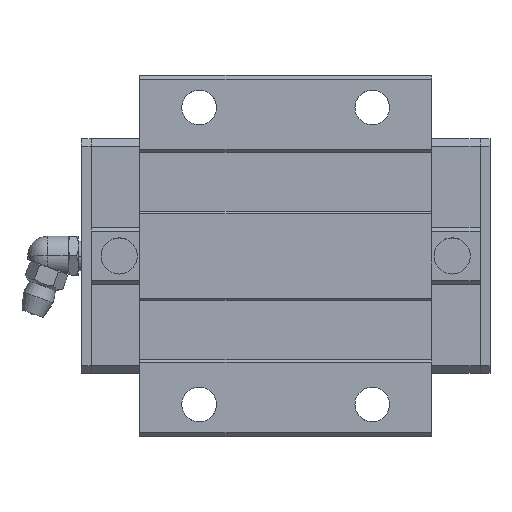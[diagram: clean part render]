
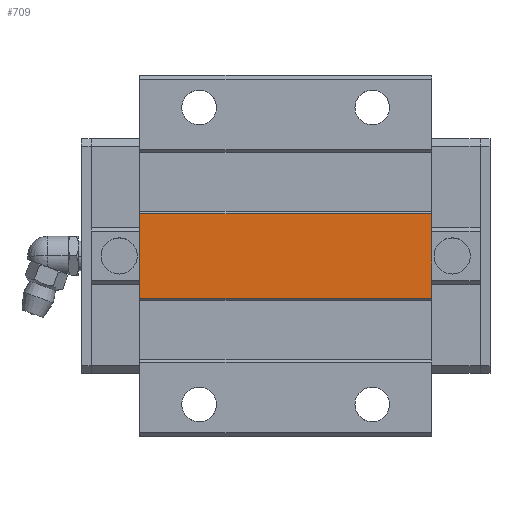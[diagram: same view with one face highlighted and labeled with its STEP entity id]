
A CAD part, top view. The second image highlights one B-rep face of the part: STEP entity #709.
In plain terms, the highlighted planar face has unit normal (0, 0, 1).
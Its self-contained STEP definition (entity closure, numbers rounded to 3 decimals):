
#648=CARTESIAN_POINT('POINT54',(70.8,-8.55,26.));
#649=VERTEX_POINT('VERTEX54',#648);
#656=CARTESIAN_POINT('POINT55',(11.8,-8.55,26.));
#657=VERTEX_POINT('VERTEX55',#656);
#658=CARTESIAN_POINT('POS73',(11.8,-8.55,26.));
#659=DIRECTION('DIR107',(1.,0.,0.));
#660=VECTOR('VEC39',#659,1.);
#661=LINE('STRAIGHT39',#658,#660);
#662=EDGE_CURVE('EDGE71',#657,#649,#661,.T.);
#679=CARTESIAN_POINT('POINT56',(70.8,8.55,26.
   ));
#680=VERTEX_POINT('VERTEX56',#679);
#681=CARTESIAN_POINT('POS76',(70.8,8.55,26.))
   ;
#682=DIRECTION('DIR111',(0.,1.,0.));
#683=VECTOR('VEC41',#682,1.);
#684=LINE('STRAIGHT41',#681,#683);
#685=EDGE_CURVE('EDGE73',#649,#680,#684,.T.);
#686=ORIENTED_EDGE('COEDGE99',*,*,#685,.T.);
#687=CARTESIAN_POINT('POINT57',(11.8,8.55,26.
   ));
#688=VERTEX_POINT('VERTEX57',#687);
#689=CARTESIAN_POINT('POS77',(11.8,8.55,26.))
   ;
#690=DIRECTION('DIR112',(1.,0.,0.));
#691=VECTOR('VEC42',#690,1.);
#692=LINE('STRAIGHT42',#689,#691);
#693=EDGE_CURVE('EDGE74',#688,#680,#692,.T.);
#694=ORIENTED_EDGE('COEDGE100',*,*,#693,.F.);
#695=CARTESIAN_POINT('POS78',(11.8,0.,26.));
#696=DIRECTION('DIR113',(0.,-1.,0.));
#697=VECTOR('VEC43',#696,1.);
#698=LINE('STRAIGHT43',#695,#697);
#699=EDGE_CURVE('EDGE75',#688,#657,#698,.T.);
#700=ORIENTED_EDGE('COEDGE101',*,*,#699,.T.);
#701=ORIENTED_EDGE('COEDGE102',*,*,#662,.T.);
#702=EDGE_LOOP('NONE',(#686,#694,#700,#701));
#703=FACE_BOUND('LOOP1',#702,.T.);
#704=CARTESIAN_POINT('POS79',(11.8,0.,26.));
#705=DIRECTION('DIR114',(0.,0.,1.));
#706=DIRECTION('DIR115',(1.,0.,0.));
#707=AXIS2_PLACEMENT_3D('AXIS36',#704,#705,#706);
#708=PLANE('PLANE12',#707);
#709=ADVANCED_FACE('FACE22',(#703),#708,.T.);
